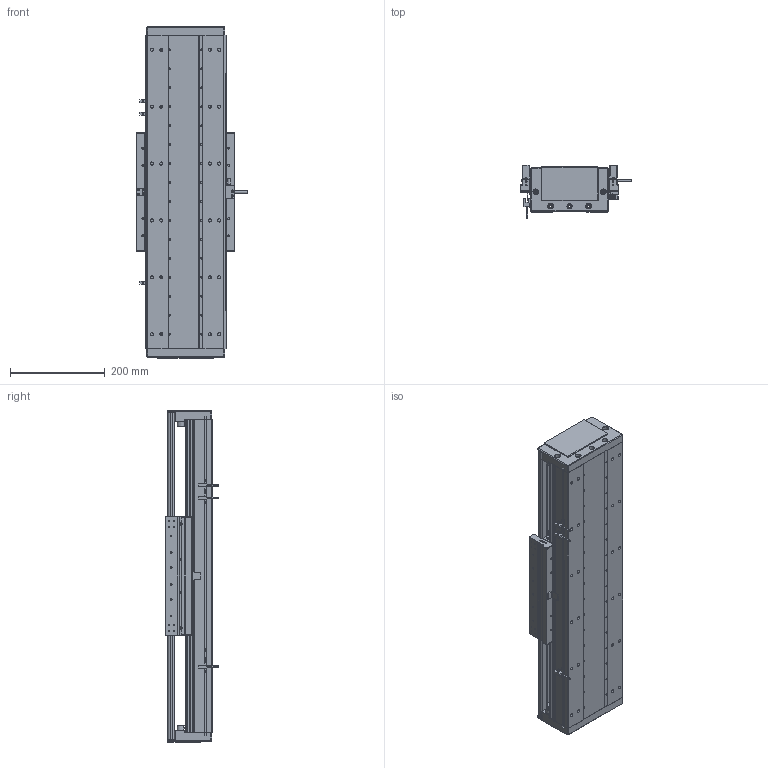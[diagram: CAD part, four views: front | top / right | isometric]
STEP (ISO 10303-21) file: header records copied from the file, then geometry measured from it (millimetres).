
FILE_DESCRIPTION (( 'STEP AP203' ), '1' );
FILE_NAME ('DA-C165-C3-T360-C010-0.2 直线电机.STEP', '2023-06-13T08:38:43', ( '微软用户' ), ( '微软中国' ), 'SwSTEP 2.0', 'SolidWorks 2019', '' );
FILE_SCHEMA (( 'CONFIG_CONTROL_DESIGN' ));
Length unit declared in the file: millimetre
Products named in the file (15): 葩璃 CKM03-W075-C1C2-TP-3.0^DA-C165-C3-T-C010-0.2-N 眻盄萇儂; 复件 DA165-GYP-00 光电感应片^DA-C165-C3-T-C010-0.2-N 直线电机; 复件 DMA-010-0.2 读数头^DA-C165-C3-T-C010-0.2-N 直线电机; 葩璃 PM-T45^DA-C165-C3-T-C010-0.2-N 眻盄萇儂; 葩璃 CKM01-W075-TRL^DA-C165-C3-T-C010-0.2-N 眻盄萇儂; DA-C165-C3-T360-C010-0.2 眻盄萇儂; 葩璃 DA95-GT-T-00^IU-CU165-L 菁釱絳寢_T; 复件 DA95-HXJ-00 缓冲橡胶^DA-C165-C3-T-C010-0.2-N 直线电机; 复件 六角薄螺母 M3^DA-C165-C3-T-C010-0.2-N 直线电机_GB_FASTENER_NUT_STNAB M3-C; IU-CU165-L 菁釱絳寢; 复件 DA165-DG-H-N-00 端盖^DA-C165-C3-T-C010-0.2-N 直线电机; 复件 XD-U-02L 磁栅尺^DA-C165-C3-T-C010-0.2-N 直线电机_T; 珨极趙賑雄怢啣C3-wf; 复件 DA165-T-002-00 盖板^DA-C165-C3-T-C010-0.2-N 直线电机_0840-002-00; 复件 CU165 底座^IU-CU165-L 底座导轨_L660
Assembly tree (30 placements, depth 3):
  DA-C165-C3-T360-C010-0.2 眻盄萇儂
    IU-CU165-L 菁釱絳寢
      复件 CU165 底座^IU-CU165-L 底座导轨_L660
      葩璃 DA95-GT-T-00^IU-CU165-L 菁釱絳寢_T  x4
    复件 DA165-DG-H-N-00 端盖^DA-C165-C3-T-C010-0.2-N 直线电机  x2
    复件 DA95-HXJ-00 缓冲橡胶^DA-C165-C3-T-C010-0.2-N 直线电机  x4
    复件 DA165-T-002-00 盖板^DA-C165-C3-T-C010-0.2-N 直线电机_0840-002-00
    复件 XD-U-02L 磁栅尺^DA-C165-C3-T-C010-0.2-N 直线电机_T
    葩璃 PM-T45^DA-C165-C3-T-C010-0.2-N 眻盄萇儂  x3
    葩璃 CKM01-W075-TRL^DA-C165-C3-T-C010-0.2-N 眻盄萇儂
    复件 DA165-GYP-00 光电感应片^DA-C165-C3-T-C010-0.2-N 直线电机
    复件 DMA-010-0.2 读数头^DA-C165-C3-T-C010-0.2-N 直线电机
    葩璃 CKM03-W075-C1C2-TP-3.0^DA-C165-C3-T-C010-0.2-N 眻盄萇儂
    复件 六角薄螺母 M3^DA-C165-C3-T-C010-0.2-N 直线电机_GB_FASTENER_NUT_STNAB M3-C  x8
    珨极趙賑雄怢啣C3-wf
Bounding box: 233 x 111.45 x 700 mm (x, y, z)
Volume: 6332037.1 mm3; surface area: 1597846.2 mm2
Topology: 68 solids, 118 shells, 3375 faces, 8838 edges, 5442 vertices
Faces by surface type: cylinder 1602, plane 1163, cone 552, torus 54, sphere 4
Entity records: 96233 total; most frequent: CARTESIAN_POINT 21658, DIRECTION 15594, ORIENTED_EDGE 14730, EDGE_CURVE 7365, AXIS2_PLACEMENT_3D 5884, VERTEX_POINT 4730, LINE 3826, VECTOR 3826
